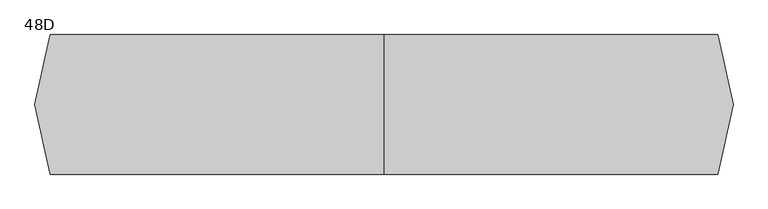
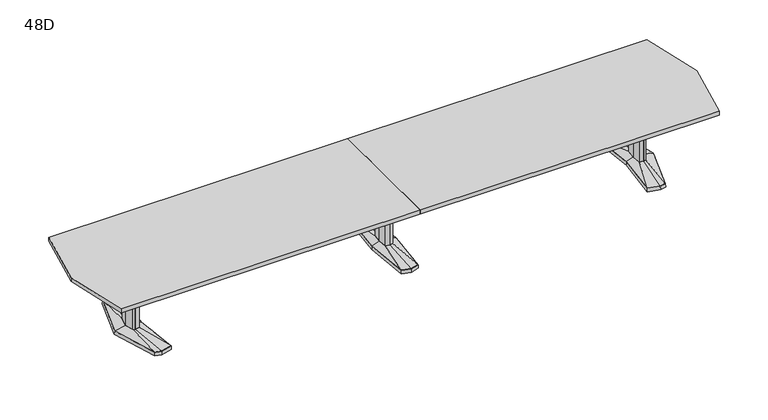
"""IFC4 building model written with IfcOpenShell, lengths in millimetres: furniture geometry, Coalesse_AM_Table_Conference_ETable2_Faceted_20ft_AluminiumBase : 48D."""

from ifc_helpers import new_model, si_unit, frame, origin, place, context, project, spatial, polyline, outline, extrude, faceted_brep, source, transform, mapped, element, save
from ifc_brep_helpers import plane_surface, spline_surface, advanced_brep


def furniture_48d_5b0fad48(model_context):
    return source(origin(), model_context, "Body", "SolidModel", [
        faceted_brep([(-81.2333791, -433.8053819, 38.1), (0.0, -455.556576, 38.1), (81.2333791, -433.8053819, 38.1), (119.0564774, 0.0, 38.1), (81.2333791, 433.8053819, 38.1), (0.0, 455.556576, 38.1), (-81.2333791, 433.8053819, 38.1), (-119.0564774, 0.0, 38.1), (-82.7182795, -435.0512063, 3.175), (-120.65, 0.0, 3.175), (-82.7182795, 435.0512063, 3.175), (0.0, 457.2, 3.175), (82.7182795, 435.0512063, 3.175), (120.65, 0.0, 3.175), (82.7182795, -435.0512063, 3.175), (0.0, -457.2, 3.175), (0.0, 429.2617927, 3.175), (-77.9676806, 408.3850278, 3.175), (-74.7019821, 382.9646737, 3.175), (0.0, 402.9670094, 3.175), (74.7019821, 382.9646737, 3.175), (77.9676806, 408.3850278, 3.175), (0.0, -429.2617927, 3.175), (77.9676806, -408.3850278, 3.175), (74.7019821, -382.9646737, 3.175), (0.0, -402.9670094, 3.175), (-74.7019821, -382.9646737, 3.175), (-77.9676806, -408.3850278, 3.175), (-71.8574262, 114.6326257, 3.175), (-82.5426076, 0.0, 3.175), (-71.8574262, -114.6326257, 3.175), (0.0, -133.8761372, 3.175), (71.8574262, -114.6326257, 3.175), (82.5426076, 0.0, 3.175), (71.8574262, 114.6326257, 3.175), (0.0, 133.8761372, 3.175), (0.0, 429.2617927, 0.0), (77.9676806, 408.3850278, 0.0), (74.7019821, 382.9646737, 0.0), (0.0, 402.9670094, 0.0), (-74.7019821, 382.9646737, 0.0), (-77.9676806, 408.3850278, 0.0), (0.0, -429.2617927, 0.0), (-77.9676806, -408.3850278, 0.0), (-74.7019821, -382.9646737, 0.0), (0.0, -402.9670094, 0.0), (74.7019821, -382.9646737, 0.0), (77.9676806, -408.3850278, 0.0), (-71.8574262, 114.6326257, 0.0), (0.0, 133.8761372, 0.0), (71.8574262, 114.6326257, 0.0), (82.5426076, 0.0, 0.0), (71.8574262, -114.6326257, 0.0), (0.0, -133.8761372, 0.0), (-71.8574262, -114.6326257, 0.0), (-82.5426076, 0.0, 0.0)], [[[0, 1, 2, 3, 4, 5, 6, 7]], [[8, 9, 10, 11, 12, 13, 14, 15], [16, 17, 18, 19, 20, 21], [22, 23, 24, 25, 26, 27], [28, 29, 30, 31, 32, 33, 34, 35]], [[1, 0, 8, 15]], [[2, 1, 15, 14]], [[3, 2, 14, 13]], [[4, 3, 13, 12]], [[5, 4, 12, 11]], [[6, 5, 11, 10]], [[7, 6, 10, 9]], [[0, 7, 9, 8]], [[36, 37, 38, 39, 40, 41]], [[42, 43, 44, 45, 46, 47]], [[48, 49, 50, 51, 52, 53, 54, 55]], [[36, 41, 17, 16]], [[41, 40, 18, 17]], [[40, 39, 19, 18]], [[39, 38, 20, 19]], [[38, 37, 21, 20]], [[37, 36, 16, 21]], [[42, 47, 23, 22]], [[47, 46, 24, 23]], [[46, 45, 25, 24]], [[45, 44, 26, 25]], [[44, 43, 27, 26]], [[43, 42, 22, 27]], [[48, 55, 29, 28]], [[55, 54, 30, 29]], [[54, 53, 31, 30]], [[53, 52, 32, 31]], [[52, 51, 33, 32]], [[51, 50, 34, 33]], [[50, 49, 35, 34]], [[49, 48, 28, 35]]]),
        faceted_brep([(-36.3832834, 84.6900825, 698.5), (-44.2774487, 0.0, 698.5), (-36.3832834, -84.6900825, 698.5), (0.0, -94.4335728, 698.5), (36.3832834, -84.6900825, 698.5), (44.2774487, 0.0, 698.5), (36.3832834, 84.6900825, 698.5), (0.0, 94.4335728, 698.5), (-36.3832834, 84.6900825, 63.5), (0.0, 94.4335728, 63.5), (36.3832834, 84.6900825, 63.5), (44.2774487, 0.0, 63.5), (36.3832834, -84.6900825, 63.5), (0.0, -94.4335728, 63.5), (-36.3832834, -84.6900825, 63.5), (-44.2774487, 0.0, 63.5)], [[[0, 1, 2, 3, 4, 5, 6, 7]], [[8, 9, 10, 11, 12, 13, 14, 15]], [[1, 0, 8, 15]], [[2, 1, 15, 14]], [[3, 2, 14, 13]], [[4, 3, 13, 12]], [[5, 4, 12, 11]], [[6, 5, 11, 10]], [[7, 6, 10, 9]], [[0, 7, 9, 8]]]),
        advanced_brep(
        [(-36.3832834, 84.6900825, 63.5), (-44.2774487, 0.0, 63.5), (-36.3832834, -84.6900825, 63.5), (0.0, -94.4335728, 63.5), (36.3832834, -84.6900825, 63.5), (44.2774487, 0.0, 63.5), (36.3832834, 84.6900825, 63.5), (0.0, 94.4335728, 63.5), (-81.2333791, 433.8053819, 38.1), (0.0, 455.556576, 38.1), (81.2333791, 433.8053819, 38.1), (119.0564774, 0.0, 38.1), (81.2333791, -433.8053819, 38.1), (0.0, -455.556576, 38.1), (-81.2333791, -433.8053819, 38.1), (-119.0564774, 0.0, 38.1)],
        [
            (0, 1),
            (1, 2),
            (2, 3),
            (3, 4),
            (4, 5),
            (5, 6),
            (6, 7),
            (7, 0),
            (8, 9),
            (9, 10),
            (10, 11),
            (11, 12),
            (12, 13),
            (13, 14),
            (14, 15),
            (15, 8),
            (15, 1),
            (0, 8),
            (14, 2),
            (13, 3),
            (12, 4),
            (11, 5),
            (10, 6),
            (9, 7),
        ],
        [
            plane_surface(frame((0.0, 0.0, 63.5), z_axis=(0.0, 0.0, 1.0000000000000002), x_axis=(-0.9659615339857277, -0.25868574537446, 0.0))),
            plane_surface(frame((0.0, 0.0, 38.1), z_axis=(0.0, 0.0, -1.0000000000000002), x_axis=(-0.9659615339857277, -0.25868574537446, 0.0))),
            spline_surface(1, 1, [[(-81.2333791, 433.8053819, 38.1), (-36.3832834, 84.6900825, 63.5)], [(-119.0564774, 0.0, 38.1), (-44.2774487, 0.0, 63.5)]], [2, 2], [2, 2], [0.0, 1.0], [0.0, 1.0]),
            spline_surface(1, 1, [[(-119.0564774, 0.0, 38.1), (-44.2774487, 0.0, 63.5)], [(-81.2333791, -433.8053819, 38.1), (-36.3832834, -84.6900825, 63.5)]], [2, 2], [2, 2], [0.0, 1.0], [0.0, 1.0]),
            spline_surface(1, 1, [[(-81.2333791, -433.8053819, 38.1), (-36.3832834, -84.6900825, 63.5)], [(0.0, -455.556576, 38.1), (0.0, -94.4335728, 63.5)]], [2, 2], [2, 2], [0.0, 1.0], [0.0, 1.0]),
            spline_surface(1, 1, [[(0.0, -455.556576, 38.1), (0.0, -94.4335728, 63.5)], [(81.2333791, -433.8053819, 38.1), (36.3832834, -84.6900825, 63.5)]], [2, 2], [2, 2], [0.0, 1.0], [0.0, 1.0]),
            spline_surface(1, 1, [[(81.2333791, -433.8053819, 38.1), (36.3832834, -84.6900825, 63.5)], [(119.0564774, 0.0, 38.1), (44.2774487, 0.0, 63.5)]], [2, 2], [2, 2], [0.0, 1.0], [0.0, 1.0]),
            spline_surface(1, 1, [[(119.0564774, 0.0, 38.1), (44.2774487, 0.0, 63.5)], [(81.2333791, 433.8053819, 38.1), (36.3832834, 84.6900825, 63.5)]], [2, 2], [2, 2], [0.0, 1.0], [0.0, 1.0]),
            spline_surface(1, 1, [[(81.2333791, 433.8053819, 38.1), (36.3832834, 84.6900825, 63.5)], [(0.0, 455.556576, 38.1), (0.0, 94.4335728, 63.5)]], [2, 2], [2, 2], [0.0, 1.0], [0.0, 1.0]),
            spline_surface(1, 1, [[(0.0, 455.556576, 38.1), (0.0, 94.4335728, 63.5)], [(-81.2333791, 433.8053819, 38.1), (-36.3832834, 84.6900825, 63.5)]], [2, 2], [2, 2], [0.0, 1.0], [0.0, 1.0]),
        ],
        [
            (0, [[1, 2, 3, 4, 5, 6, 7, 8]]),
            (1, [[9, 10, 11, 12, 13, 14, 15, 16]]),
            (2, [[-16, 17, -1, 18]]),
            (3, [[-15, 19, -2, -17]]),
            (4, [[-14, 20, -3, -19]]),
            (5, [[-13, 21, -4, -20]]),
            (6, [[-12, 22, -5, -21]]),
            (7, [[-11, 23, -6, -22]]),
            (8, [[-10, 24, -7, -23]]),
            (9, [[-9, -18, -8, -24]]),
        ],
    ),
        faceted_brep([(2429.8306835, 455.5848221, 38.1), (2320.2531277, 426.2263816, 38.1), (2361.4163717, 0.0, 38.1), (2320.2531277, -426.2263816, 38.1), (2429.8306835, -455.5848221, 38.1), (2485.9570396, -440.5478297, 38.1), (2623.2684269, 0.0, 38.1), (2485.9570396, 440.5478297, 38.1), (2429.8306754, 457.2283104, 3.175), (2487.2124472, 441.8549756, 3.175), (2624.93125, 0.0, 3.175), (2487.2124472, -441.8549756, 3.175), (2429.8306754, -457.2283104, 3.175), (2318.54375, -427.4118891, 3.175), (2359.8214856, 0.0, 3.175), (2318.54375, 427.4118891, 3.175), (2433.420115, 428.3273875, 3.175), (2328.3718228, 402.1057253, 3.175), (2336.490518, 377.985069, 3.175), (2437.0095466, 401.0699529, 3.175), (2487.5691725, 387.524361, 3.175), (2486.7631061, 414.0360954, 3.175), (2433.420115, -428.3273875, 3.175), (2486.7631061, -414.0360954, 3.175), (2487.5691725, -387.524361, 3.175), (2437.0095466, -401.0699529, 3.175), (2336.490518, -377.985069, 3.175), (2328.3718228, -402.1057253, 3.175), (2560.0153621, 0.0, 3.175), (2527.7459611, 120.4193755, 3.175), (2479.0987222, 133.471665, 3.175), (2399.2180526, 119.4176561, 3.175), (2388.0868466, 0.0, 3.175), (2399.2180526, -119.4176561, 3.175), (2479.0987222, -133.471665, 3.175), (2527.7459611, -120.4193755, 3.175), (2433.420115, 428.3273875, 0.0), (2486.7631061, 414.0360954, 0.0), (2487.5691725, 387.524361, 0.0), (2437.0095466, 401.0699529, 0.0), (2336.490518, 377.985069, 0.0), (2328.3718228, 402.1057253, 0.0), (2433.420115, -428.3273875, 0.0), (2328.3718228, -402.1057253, 0.0), (2336.490518, -377.985069, 0.0), (2437.0095466, -401.0699529, 0.0), (2487.5691725, -387.524361, 0.0), (2486.7631061, -414.0360954, 0.0), (2560.0153621, 0.0, 0.0), (2527.7459611, -120.4193755, 0.0), (2479.0987222, -133.471665, 0.0), (2399.2180526, -119.4176561, 0.0), (2388.0868466, 0.0, 0.0), (2399.2180526, 119.4176561, 0.0), (2479.0987222, 133.471665, 0.0), (2527.7459611, 120.4193755, 0.0)], [[[0, 1, 2, 3, 4, 5, 6, 7]], [[8, 9, 10, 11, 12, 13, 14, 15], [16, 17, 18, 19, 20, 21], [22, 23, 24, 25, 26, 27], [28, 29, 30, 31, 32, 33, 34, 35]], [[7, 9, 8, 0]], [[6, 10, 9, 7]], [[5, 11, 10, 6]], [[4, 12, 11, 5]], [[3, 13, 12, 4]], [[2, 14, 13, 3]], [[1, 15, 14, 2]], [[0, 8, 15, 1]], [[36, 37, 38, 39, 40, 41]], [[42, 43, 44, 45, 46, 47]], [[48, 49, 50, 51, 52, 53, 54, 55]], [[36, 16, 21, 37]], [[37, 21, 20, 38]], [[38, 20, 19, 39]], [[39, 19, 18, 40]], [[40, 18, 17, 41]], [[41, 17, 16, 36]], [[42, 22, 27, 43]], [[43, 27, 26, 44]], [[44, 26, 25, 45]], [[45, 25, 24, 46]], [[46, 24, 23, 47]], [[47, 23, 22, 42]], [[48, 28, 35, 49]], [[49, 35, 34, 50]], [[50, 34, 33, 51]], [[51, 33, 32, 52]], [[52, 32, 31, 53]], [[53, 31, 30, 54]], [[54, 30, 29, 55]], [[55, 29, 28, 48]]]),
        faceted_brep([(2520.5710836, 0.0, 698.5), (2496.6358546, 89.3188359, 698.5), (2479.7824984, 93.8406728, 698.5), (2477.3826511, 94.4845635, 698.5), (2434.455146, 86.9320037, 698.5), (2426.3520056, 0.0, 698.5), (2434.455146, -86.9320037, 698.5), (2477.3826511, -94.4845635, 698.5), (2479.7824984, -93.8406728, 698.5), (2496.6358546, -89.3188359, 698.5), (2520.5710836, 0.0, 63.5), (2496.6358546, -89.3188359, 63.5), (2479.7824984, -93.8406728, 63.5), (2477.3826511, -94.4845635, 63.5), (2434.455146, -86.9320037, 63.5), (2426.3520056, 0.0, 63.5), (2434.455146, 86.9320037, 63.5), (2477.3826511, 94.4845635, 63.5), (2479.7824984, 93.8406728, 63.5), (2496.6358546, 89.3188359, 63.5)], [[[0, 1, 2, 3, 4, 5, 6, 7, 8, 9]], [[10, 11, 12, 13, 14, 15, 16, 17, 18, 19]], [[9, 11, 10, 0]], [[8, 12, 11, 9]], [[7, 13, 12, 8]], [[6, 14, 13, 7]], [[5, 15, 14, 6]], [[4, 16, 15, 5]], [[3, 17, 16, 4]], [[2, 18, 17, 3]], [[1, 19, 18, 2]], [[0, 10, 19, 1]]]),
        advanced_brep(
        [(2477.3826511, 94.4845635, 63.5), (2434.455146, 86.9320037, 63.5), (2426.3520056, 0.0, 63.5), (2434.455146, -86.9320037, 63.5), (2477.3826511, -94.4845635, 63.5), (2496.6358546, -89.3188359, 63.5), (2520.5710836, 0.0, 63.5), (2496.6358546, 89.3188359, 63.5), (2429.8306835, 455.5848221, 38.1), (2485.9570396, 440.5478297, 38.1), (2623.2684269, 0.0, 38.1), (2485.9570396, -440.5478297, 38.1), (2429.8306835, -455.5848221, 38.1), (2320.2531277, -426.2263816, 38.1), (2361.4163717, 0.0, 38.1), (2320.2531277, 426.2263816, 38.1)],
        [
            (0, 1),
            (1, 2),
            (2, 3),
            (3, 4),
            (4, 5),
            (5, 6),
            (6, 7),
            (7, 0),
            (8, 9),
            (9, 10),
            (10, 11),
            (11, 12),
            (12, 13),
            (13, 14),
            (14, 15),
            (15, 8),
            (8, 0),
            (7, 9),
            (6, 10),
            (5, 11),
            (4, 12),
            (3, 13),
            (2, 14),
            (1, 15),
        ],
        [
            plane_surface(frame((2470.4837991, 0.0, 63.5), z_axis=(0.0, 0.0, 1.0), x_axis=(-0.25884244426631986, -0.9659195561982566, 0.0))),
            plane_surface(frame((2432.0958125, 0.0, 38.1), z_axis=(0.0, 0.0, -1.0), x_axis=(-0.25884244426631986, -0.9659195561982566, 0.0))),
            spline_surface(1, 1, [[(2429.8306835, 455.5848221, 38.1), (2485.9570396, 440.5478297, 38.1)], [(2477.3826511, 94.4845635, 63.5), (2496.6358546, 89.3188359, 63.5)]], [2, 2], [2, 2], [0.0, 1.0], [0.0, 1.0]),
            spline_surface(1, 1, [[(2485.9570396, 440.5478297, 38.1), (2623.2684269, 0.0, 38.1)], [(2496.6358546, 89.3188359, 63.5), (2520.5710836, 0.0, 63.5)]], [2, 2], [2, 2], [0.0, 1.0], [0.0, 1.0]),
            spline_surface(1, 1, [[(2623.2684269, 0.0, 38.1), (2485.9570396, -440.5478297, 38.1)], [(2520.5710836, 0.0, 63.5), (2496.6358546, -89.3188359, 63.5)]], [2, 2], [2, 2], [0.0, 1.0], [0.0, 1.0]),
            spline_surface(1, 1, [[(2485.9570396, -440.5478297, 38.1), (2429.8306835, -455.5848221, 38.1)], [(2496.6358546, -89.3188359, 63.5), (2477.3826511, -94.4845635, 63.5)]], [2, 2], [2, 2], [0.0, 1.0], [0.0, 1.0]),
            spline_surface(1, 1, [[(2429.8306835, -455.5848221, 38.1), (2320.2531277, -426.2263816, 38.1)], [(2477.3826511, -94.4845635, 63.5), (2434.455146, -86.9320037, 63.5)]], [2, 2], [2, 2], [0.0, 1.0], [0.0, 1.0]),
            spline_surface(1, 1, [[(2320.2531277, -426.2263816, 38.1), (2361.4163717, 0.0, 38.1)], [(2434.455146, -86.9320037, 63.5), (2426.3520056, 0.0, 63.5)]], [2, 2], [2, 2], [0.0, 1.0], [0.0, 1.0]),
            spline_surface(1, 1, [[(2361.4163717, 0.0, 38.1), (2320.2531277, 426.2263816, 38.1)], [(2426.3520056, 0.0, 63.5), (2434.455146, 86.9320037, 63.5)]], [2, 2], [2, 2], [0.0, 1.0], [0.0, 1.0]),
            spline_surface(1, 1, [[(2320.2531277, 426.2263816, 38.1), (2429.8306835, 455.5848221, 38.1)], [(2434.455146, 86.9320037, 63.5), (2477.3826511, 94.4845635, 63.5)]], [2, 2], [2, 2], [0.0, 1.0], [0.0, 1.0]),
        ],
        [
            (0, [[1, 2, 3, 4, 5, 6, 7, 8]]),
            (1, [[9, 10, 11, 12, 13, 14, 15, 16]]),
            (2, [[17, -8, 18, -9]]),
            (3, [[-18, -7, 19, -10]]),
            (4, [[-19, -6, 20, -11]]),
            (5, [[-20, -5, 21, -12]]),
            (6, [[-21, -4, 22, -13]]),
            (7, [[-22, -3, 23, -14]]),
            (8, [[-23, -2, 24, -15]]),
            (9, [[-24, -1, -17, -16]]),
        ],
    ),
        faceted_brep([(-2429.8306835, 455.5848221, 38.1), (-2485.9570396, 440.5478297, 38.1), (-2623.2684269, 0.0, 38.1), (-2485.9570396, -440.5478297, 38.1), (-2429.8306835, -455.5848221, 38.1), (-2320.2531277, -426.2263816, 38.1), (-2361.4163717, 0.0, 38.1), (-2320.2531277, 426.2263816, 38.1), (-2429.8306754, 457.2283104, 3.175), (-2318.54375, 427.4118891, 3.175), (-2359.8214856, 0.0, 3.175), (-2318.54375, -427.4118891, 3.175), (-2429.8306754, -457.2283104, 3.175), (-2487.2124472, -441.8549756, 3.175), (-2624.93125, 0.0, 3.175), (-2487.2124472, 441.8549756, 3.175), (-2433.420115, 428.3273875, 3.175), (-2486.7631061, 414.0360954, 3.175), (-2487.5691725, 387.524361, 3.175), (-2437.0095466, 401.0699529, 3.175), (-2336.490518, 377.985069, 3.175), (-2328.3718228, 402.1057253, 3.175), (-2433.420115, -428.3273875, 3.175), (-2328.3718228, -402.1057253, 3.175), (-2336.490518, -377.985069, 3.175), (-2437.0095466, -401.0699529, 3.175), (-2487.5691725, -387.524361, 3.175), (-2486.7631061, -414.0360954, 3.175), (-2560.0153621, 0.0, 3.175), (-2527.7459611, -120.4193755, 3.175), (-2479.0987222, -133.471665, 3.175), (-2399.2180526, -119.4176561, 3.175), (-2388.0868466, 0.0, 3.175), (-2399.2180526, 119.4176561, 3.175), (-2479.0987222, 133.471665, 3.175), (-2527.7459611, 120.4193755, 3.175), (-2433.420115, 428.3273875, 0.0), (-2328.3718228, 402.1057253, 0.0), (-2336.490518, 377.985069, 0.0), (-2437.0095466, 401.0699529, 0.0), (-2487.5691725, 387.524361, 0.0), (-2486.7631061, 414.0360954, 0.0), (-2433.420115, -428.3273875, 0.0), (-2486.7631061, -414.0360954, 0.0), (-2487.5691725, -387.524361, 0.0), (-2437.0095466, -401.0699529, 0.0), (-2336.490518, -377.985069, 0.0), (-2328.3718228, -402.1057253, 0.0), (-2560.0153621, 0.0, 0.0), (-2527.7459611, 120.4193755, 0.0), (-2479.0987222, 133.471665, 0.0), (-2399.2180526, 119.4176561, 0.0), (-2388.0868466, 0.0, 0.0), (-2399.2180526, -119.4176561, 0.0), (-2479.0987222, -133.471665, 0.0), (-2527.7459611, -120.4193755, 0.0)], [[[0, 1, 2, 3, 4, 5, 6, 7]], [[8, 9, 10, 11, 12, 13, 14, 15], [16, 17, 18, 19, 20, 21], [22, 23, 24, 25, 26, 27], [28, 29, 30, 31, 32, 33, 34, 35]], [[1, 0, 8, 15]], [[2, 1, 15, 14]], [[3, 2, 14, 13]], [[4, 3, 13, 12]], [[5, 4, 12, 11]], [[6, 5, 11, 10]], [[7, 6, 10, 9]], [[0, 7, 9, 8]], [[36, 37, 38, 39, 40, 41]], [[42, 43, 44, 45, 46, 47]], [[48, 49, 50, 51, 52, 53, 54, 55]], [[36, 41, 17, 16]], [[41, 40, 18, 17]], [[40, 39, 19, 18]], [[39, 38, 20, 19]], [[38, 37, 21, 20]], [[37, 36, 16, 21]], [[42, 47, 23, 22]], [[47, 46, 24, 23]], [[46, 45, 25, 24]], [[45, 44, 26, 25]], [[44, 43, 27, 26]], [[43, 42, 22, 27]], [[48, 55, 29, 28]], [[55, 54, 30, 29]], [[54, 53, 31, 30]], [[53, 52, 32, 31]], [[52, 51, 33, 32]], [[51, 50, 34, 33]], [[50, 49, 35, 34]], [[49, 48, 28, 35]]]),
        faceted_brep([(-2520.5710836, 0.0, 698.5), (-2496.6358546, -89.3188359, 698.5), (-2479.7824984, -93.8406728, 698.5), (-2477.3826511, -94.4845635, 698.5), (-2434.455146, -86.9320037, 698.5), (-2426.3520056, 0.0, 698.5), (-2434.455146, 86.9320037, 698.5), (-2477.3826511, 94.4845635, 698.5), (-2479.7824984, 93.8406728, 698.5), (-2496.6358546, 89.3188359, 698.5), (-2520.5710836, 0.0, 63.5), (-2496.6358546, 89.3188359, 63.5), (-2479.7824984, 93.8406728, 63.5), (-2477.3826511, 94.4845635, 63.5), (-2434.455146, 86.9320037, 63.5), (-2426.3520056, 0.0, 63.5), (-2434.455146, -86.9320037, 63.5), (-2477.3826511, -94.4845635, 63.5), (-2479.7824984, -93.8406728, 63.5), (-2496.6358546, -89.3188359, 63.5)], [[[0, 1, 2, 3, 4, 5, 6, 7, 8, 9]], [[10, 11, 12, 13, 14, 15, 16, 17, 18, 19]], [[1, 0, 10, 19]], [[2, 1, 19, 18]], [[3, 2, 18, 17]], [[4, 3, 17, 16]], [[5, 4, 16, 15]], [[6, 5, 15, 14]], [[7, 6, 14, 13]], [[8, 7, 13, 12]], [[9, 8, 12, 11]], [[0, 9, 11, 10]]]),
        advanced_brep(
        [(-2477.3826511, 94.4845635, 63.5), (-2496.6358546, 89.3188359, 63.5), (-2520.5710836, 0.0, 63.5), (-2496.6358546, -89.3188359, 63.5), (-2477.3826511, -94.4845635, 63.5), (-2434.455146, -86.9320037, 63.5), (-2426.3520056, 0.0, 63.5), (-2434.455146, 86.9320037, 63.5), (-2429.8306835, 455.5848221, 38.1), (-2320.2531277, 426.2263816, 38.1), (-2361.4163717, 0.0, 38.1), (-2320.2531277, -426.2263816, 38.1), (-2429.8306835, -455.5848221, 38.1), (-2485.9570396, -440.5478297, 38.1), (-2623.2684269, 0.0, 38.1), (-2485.9570396, 440.5478297, 38.1)],
        [
            (0, 1),
            (1, 2),
            (2, 3),
            (3, 4),
            (4, 5),
            (5, 6),
            (6, 7),
            (7, 0),
            (8, 9),
            (9, 10),
            (10, 11),
            (11, 12),
            (12, 13),
            (13, 14),
            (14, 15),
            (15, 8),
            (15, 1),
            (0, 8),
            (14, 2),
            (13, 3),
            (12, 4),
            (11, 5),
            (10, 6),
            (9, 7),
        ],
        [
            plane_surface(frame((-2470.4837991, 0.0, 63.5), z_axis=(0.0, 0.0, 1.0), x_axis=(0.25884244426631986, -0.9659195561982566, 0.0))),
            plane_surface(frame((-2432.0958125, 0.0, 38.1), z_axis=(0.0, 0.0, -1.0), x_axis=(0.25884244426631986, -0.9659195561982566, 0.0))),
            spline_surface(1, 1, [[(-2429.8306835, 455.5848221, 38.1), (-2477.3826511, 94.4845635, 63.5)], [(-2485.9570396, 440.5478297, 38.1), (-2496.6358546, 89.3188359, 63.5)]], [2, 2], [2, 2], [0.0, 1.0], [0.0, 1.0]),
            spline_surface(1, 1, [[(-2485.9570396, 440.5478297, 38.1), (-2496.6358546, 89.3188359, 63.5)], [(-2623.2684269, 0.0, 38.1), (-2520.5710836, 0.0, 63.5)]], [2, 2], [2, 2], [0.0, 1.0], [0.0, 1.0]),
            spline_surface(1, 1, [[(-2623.2684269, 0.0, 38.1), (-2520.5710836, 0.0, 63.5)], [(-2485.9570396, -440.5478297, 38.1), (-2496.6358546, -89.3188359, 63.5)]], [2, 2], [2, 2], [0.0, 1.0], [0.0, 1.0]),
            spline_surface(1, 1, [[(-2485.9570396, -440.5478297, 38.1), (-2496.6358546, -89.3188359, 63.5)], [(-2429.8306835, -455.5848221, 38.1), (-2477.3826511, -94.4845635, 63.5)]], [2, 2], [2, 2], [0.0, 1.0], [0.0, 1.0]),
            spline_surface(1, 1, [[(-2429.8306835, -455.5848221, 38.1), (-2477.3826511, -94.4845635, 63.5)], [(-2320.2531277, -426.2263816, 38.1), (-2434.455146, -86.9320037, 63.5)]], [2, 2], [2, 2], [0.0, 1.0], [0.0, 1.0]),
            spline_surface(1, 1, [[(-2320.2531277, -426.2263816, 38.1), (-2434.455146, -86.9320037, 63.5)], [(-2361.4163717, 0.0, 38.1), (-2426.3520056, 0.0, 63.5)]], [2, 2], [2, 2], [0.0, 1.0], [0.0, 1.0]),
            spline_surface(1, 1, [[(-2361.4163717, 0.0, 38.1), (-2426.3520056, 0.0, 63.5)], [(-2320.2531277, 426.2263816, 38.1), (-2434.455146, 86.9320037, 63.5)]], [2, 2], [2, 2], [0.0, 1.0], [0.0, 1.0]),
            spline_surface(1, 1, [[(-2320.2531277, 426.2263816, 38.1), (-2434.455146, 86.9320037, 63.5)], [(-2429.8306835, 455.5848221, 38.1), (-2477.3826511, 94.4845635, 63.5)]], [2, 2], [2, 2], [0.0, 1.0], [0.0, 1.0]),
        ],
        [
            (0, [[1, 2, 3, 4, 5, 6, 7, 8]]),
            (1, [[9, 10, 11, 12, 13, 14, 15, 16]]),
            (2, [[-16, 17, -1, 18]]),
            (3, [[-15, 19, -2, -17]]),
            (4, [[-14, 20, -3, -19]]),
            (5, [[-13, 21, -4, -20]]),
            (6, [[-12, 22, -5, -21]]),
            (7, [[-11, 23, -6, -22]]),
            (8, [[-10, 24, -7, -23]]),
            (9, [[-9, -18, -8, -24]]),
        ],
    ),
        extrude(outline(polyline([(96.8375, 698.5), (103.1875, 698.5), (103.1875, 476.25), (-103.1875, 476.25), (-103.1875, 698.5), (-96.8375, 698.5), (-96.8375, 482.6), (96.8375, 482.6), (96.8375, 698.5)])), frame((44.2774487, 0.0, 0.0), z_axis=(1.0, 0.0, 0.0), x_axis=(0.0, 1.0, 0.0)), (0.0, 0.0, 1.0), 2382.2163013),
        extrude(outline(polyline([(2912.8541794, 609.6), (3048.0, 0.0), (2912.8541794, -609.6), (0.0, -609.6), (0.0, 609.6), (2912.8541794, 609.6)])), frame((0.0, 0.0, 698.5), z_axis=(0.0, 0.0, 1.0), x_axis=(1.0, 0.0, 0.0)), (0.0, 0.0, 1.0), 38.1),
        extrude(outline(polyline([(0.0, -609.6), (-2912.8541794, -609.6), (-3048.0, 0.0), (-2912.8541794, 609.6), (0.0, 609.6), (0.0, -609.6)])), frame((0.0, 0.0, 698.5), z_axis=(0.0, 0.0, 1.0), x_axis=(1.0, 0.0, 0.0)), (0.0, 0.0, 1.0), 38.1),
        extrude(outline(polyline([(96.8375, 698.5), (103.1875, 698.5), (103.1875, 476.25), (-103.1875, 476.25), (-103.1875, 698.5), (-96.8375, 698.5), (-96.8375, 482.6), (96.8375, 482.6), (96.8375, 698.5)])), frame((-2426.49375, 0.0, 0.0), z_axis=(1.0, 0.0, 0.0), x_axis=(0.0, 1.0, 0.0)), (0.0, 0.0, 1.0), 2382.2163013),
    ])


if __name__ == "__main__":
    model = new_model("IFC4")
    model_context = context("Model", 3, world=origin())
    ifc_project = project(units=[si_unit("LENGTHUNIT", "METRE", prefix="MILLI")], contexts=[model_context])
    site = spatial("IfcSite", under=ifc_project)
    building = spatial("IfcBuilding", under=site)
    placement = place(None, origin())
    furniture_48d_shape = furniture_48d_5b0fad48(model_context)
    element("IfcFurniture", 1, ObjectType="Coalesse_AM_Table_Conference_ETable2_Faceted_20ft_AluminiumBase : 48D", at=placement, inside=building, context=model_context, shape_type="MappedRepresentation", body=[
        mapped(furniture_48d_shape, transform((0.0, 0.0, 0.0), x_axis=(1.0, 0.0, 0.0), y_axis=(0.0, 1.0, 0.0), z_axis=(0.0, 0.0, 1.0))),
    ])
    save(model, "model.ifc")
